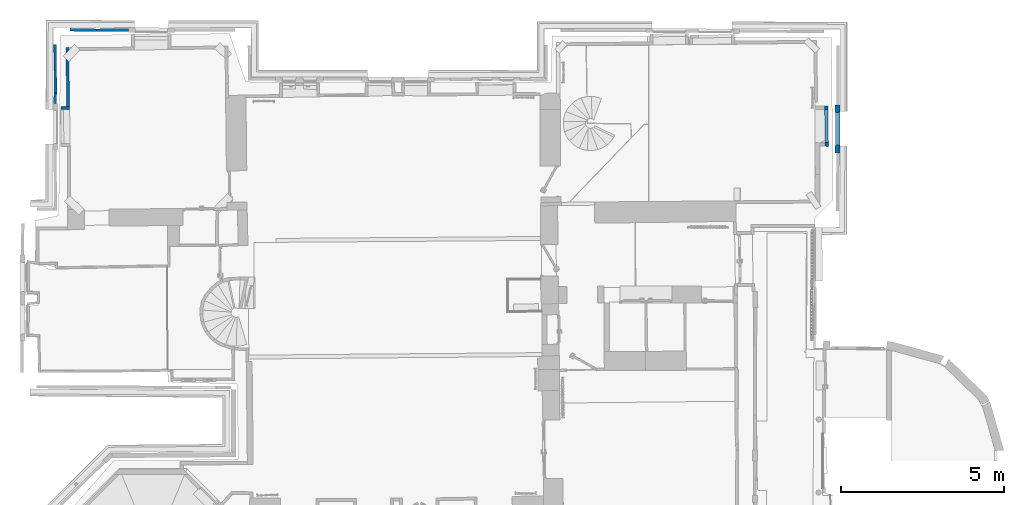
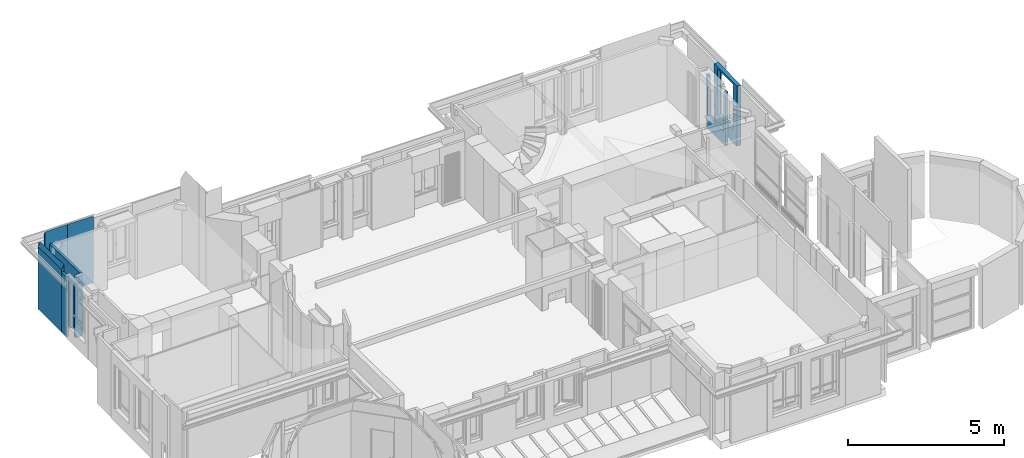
# One storey, part 19 of 72: 8 walls, 2 openings.
"""IFC2X3 building model written with IfcOpenShell, lengths in centimetres."""

from ifc_helpers import new_model, entity, si_unit, converted_unit, direction, frame, origin, origin_with_axes, origin_2d_with_axis, place, context, subcontext, project, spatial, polyline, rectangle, outline, extrude, clip, bounded_halfspace, faceted_brep, shape, material, layer, layer_set, layer_usage, type_object, element, save


model = new_model("IFC2X3")

# Units and contexts
model_context = context("Model", 3, precision=0.0001, world=origin(), true_north=direction((0.225632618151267, 0.974212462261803, 0.0)))
body_context = subcontext(model_context, "Body", "Model", "MODEL_VIEW")
footprint_context = subcontext(model_context, "FootPrint", "Model", "MODEL_VIEW")
profile_context = subcontext(model_context, "Profile", "Model", "MODEL_VIEW")
ifc_project = project(units=[si_unit("LENGTHUNIT", "METRE", prefix="CENTI"), si_unit("AREAUNIT", "SQUARE_METRE", prefix="CENTI"), si_unit("VOLUMEUNIT", "CUBIC_METRE", prefix="CENTI"), converted_unit("PLANEANGLEUNIT", "DEGREE", entity("IfcRatioMeasure", 0.0174532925), si_unit("PLANEANGLEUNIT", "RADIAN"), dimensions=[0, 0, 0, 0, 0, 0, 0])], contexts=[model_context])

# Site, building, storey
site_placement = place(None, origin_with_axes())
site = spatial("IfcSite", under=ifc_project, at=site_placement, Name="Default Site", CompositionType="ELEMENT")
building_placement = place(site_placement, origin_with_axes())
building = spatial("IfcBuilding", under=site, at=building_placement, Name="Default Building", CompositionType="ELEMENT")
storey_placement = place(building_placement, frame((0.0, 0.0, 853.910374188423), z_axis=(0.0, 0.0, 1.0), x_axis=(1.0, 0.0, 0.0)))
storey = spatial("IfcBuildingStorey", under=building, at=storey_placement, Name="Niveau 2", CompositionType="ELEMENT", Elevation=853.910374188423)

# Walls
ifc_material = material(Name="<aucun>")
ifc_layer_1 = layer(ifc_material, 9.0)
ifc_layer_set_1 = layer_set([ifc_layer_1], Name="default")
ifc_layer_usage_1 = layer_usage(ifc_layer_set_1, "AXIS2", "POSITIVE", -4.5)
wall_type_1 = type_object("IfcWallType", Name="default 90", PredefinedType="NOTDEFINED", material=ifc_layer_set_1)
wall_1_placement = place(storey_placement, frame((-1126.59242798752, 755.378510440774, -1.95399252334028e-11), z_axis=(0.0, 0.0, 1.0), x_axis=(0.999947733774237, 0.010223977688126, 0.0)))
element("IfcWallStandardCase", 1, at=wall_1_placement, inside=storey, type_object=wall_type_1, material=ifc_layer_usage_1, Name="Enveloppe 465079", context=body_context, shape_type="Clipping", body=[
    clip(clip(clip(clip(clip(clip(extrude(outline(polyline([(-0.285581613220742, -4.49377622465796), (97.8066876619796, -4.50000000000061), (97.8066876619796, 4.49999999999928), (-0.00154639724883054, 4.50174065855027), (-0.285581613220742, -4.49377622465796)])), frame((0.0, 0.0, 1.95399252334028e-11), z_axis=(0.0, 0.0, 1.0), x_axis=(1.0, 0.0, 0.0)), (0.0, 0.0, 1.0), 261.632760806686), bounded_halfspace(frame((-0.22812885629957, -2.67422281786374, 258.696162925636), z_axis=(-0.0121302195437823, -0.849439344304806, -0.527546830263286), x_axis=(0.999916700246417, -0.0126315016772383, -0.00265287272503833)), True, frame((-0.22812885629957, -2.67422281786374, 258.696162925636), z_axis=(0.0, 0.0, 1.0), x_axis=(1.0, 0.0, 0.0)), polyline([(1.77635683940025e-13, -1.77635683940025e-13), (83.1039773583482, -1.04981547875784), (83.182374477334, 7.17422281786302), (0.226582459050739, 7.17596347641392), (1.77635683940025e-13, -1.77635683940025e-13)]))), bounded_halfspace(frame((83.8684969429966, -4.50000000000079, 259.702284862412), z_axis=(-0.0121302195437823, -0.849439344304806, -0.527546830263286), x_axis=(-0.999916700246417, 0.0126315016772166, 0.00265287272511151)), True, frame((83.8684969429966, -4.50000000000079, 259.702284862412), z_axis=(0.0, 0.0, 1.0), x_axis=(1.0, 0.0, 0.0)), polyline([(0.0, -8.88178419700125e-14), (4.68095143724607, 8.88178419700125e-14), (4.68873440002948, 0.704191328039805), (0.00727658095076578, 0.763330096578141), (0.0, -8.88178419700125e-14)]))), bounded_halfspace(frame((88.5494483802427, -4.5000000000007, 259.594652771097), z_axis=(-0.0121302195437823, -0.849439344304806, -0.527546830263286), x_axis=(0.999735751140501, 8.37177549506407e-15, -0.0229875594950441)), True, frame((88.5494483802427, -4.5000000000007, 259.594652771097), z_axis=(0.0, 0.0, 1.0), x_axis=(1.0, 0.0, 0.0)), polyline([(-4.67367485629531, 0.763330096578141), (0.00778296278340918, 0.704191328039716), (0.0, 0.0), (9.25723928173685, 8.88178419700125e-14), (9.25723928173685, 8.9999999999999), (-4.59515732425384, 8.99999999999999), (-4.67367485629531, 0.763330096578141)]))), bounded_halfspace(frame((82.8758485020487, -3.72403829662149, 258.47568028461), z_axis=(-0.0121302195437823, -0.849439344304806, -0.527546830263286), x_axis=(0.999916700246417, -0.0126315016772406, -0.00265287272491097)), True, frame((82.8758485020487, -3.72403829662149, 258.47568028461), z_axis=(0.0, 0.0, 1.0), x_axis=(1.0, 0.0, 0.0)), polyline([(0.0, -8.88178419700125e-14), (0.99992502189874, -0.0126316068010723), (1.07844255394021, 8.22403829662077), (0.0783971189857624, 8.22403829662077), (0.0, -8.88178419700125e-14)]))), bounded_halfspace(frame((-0.0884719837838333, -4.50000000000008, 261.632760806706), z_axis=(-0.0121302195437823, -0.849439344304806, -0.527546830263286), x_axis=(0.999114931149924, -0.0315472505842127, 0.0278231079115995)), True, frame((-0.0884719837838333, -4.50000000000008, 261.632760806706), z_axis=(0.0, 0.0, 1.0), x_axis=(1.0, 0.0, 0.0)), polyline([(-0.197109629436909, 0.00622377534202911), (82.9569234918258, -7.105427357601e-13), (82.9643204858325, 0.775961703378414), (-0.139656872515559, 1.82577718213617), (-0.197109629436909, 0.00622377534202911)]))), bounded_halfspace(frame((82.8684515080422, -4.50000000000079, 259.725279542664), z_axis=(-0.0121302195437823, -0.849439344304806, -0.527546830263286), x_axis=(-0.999916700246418, 0.0126315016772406, 0.00265287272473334)), True, frame((82.8684515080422, -4.50000000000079, 259.725279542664), z_axis=(0.0, 0.0, 1.0), x_axis=(1.0, 0.0, 0.0)), polyline([(-1.77635683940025e-13, 0.0), (1.00004543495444, -8.88178419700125e-14), (1.00732201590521, 0.763330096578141), (0.00739699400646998, 0.775961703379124), (-1.77635683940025e-13, 0.0)]))),
])
ifc_layer_usage_2 = layer_usage(ifc_layer_set_1, "AXIS2", "POSITIVE", -4.5)
wall_2_placement = place(storey_placement, frame((-1253.1313959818, 530.717920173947, -1.95399252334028e-11), z_axis=(0.0, 0.0, 1.0), x_axis=(0.024906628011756, 0.999689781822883, 0.0)))
element("IfcWallStandardCase", 2, at=wall_2_placement, inside=storey, type_object=wall_type_1, material=ifc_layer_usage_2, Name="Enveloppe 465424", context=body_context, shape_type="SweptSolid", body=[
    extrude(outline(polyline([(-0.0581752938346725, 4.49999999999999), (0.157865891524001, -4.49999999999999), (32.0076154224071, -4.50000000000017), (32.006449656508, 4.49997095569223), (-0.0581752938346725, 4.49999999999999)])), frame((0.0, 0.0, 1.98951966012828e-11), z_axis=(0.0, 0.0, 1.0), x_axis=(1.0, 0.0, 0.0)), (0.0, 0.0, 1.0), 234.999999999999),
])
ifc_layer_usage_3 = layer_usage(ifc_layer_set_1, "AXIS2", "POSITIVE", -4.5)
wall_3_placement = place(storey_placement, frame((-1126.73602520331, 755.381024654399, -1.95399252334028e-11), z_axis=(0.0, 0.0, 1.0), x_axis=(-0.999772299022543, 0.0213389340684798, 0.0)))
element("IfcWallStandardCase", 3, at=wall_3_placement, inside=storey, type_object=wall_type_1, material=ifc_layer_usage_3, Name="Enveloppe 465179", context=body_context, shape_type="Clipping", body=[
    clip(clip(clip(extrude(rectangle(XDim=8.99999999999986, YDim=80.9146283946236, at=origin_2d_with_axis()), frame((40.457314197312, 6.21724893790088e-13, 1.98951966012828e-11), z_axis=(0.0, 0.0, 1.0), x_axis=(1.9522577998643e-14, -1.0, 0.0)), (0.0, 0.0, 1.0), 261.627271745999), bounded_halfspace(frame((1.77635683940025e-13, 4.49999999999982, 261.627271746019), z_axis=(-0.0146836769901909, 0.849399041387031, -0.527546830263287), x_axis=(2.26537538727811e-14, -0.527603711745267, -0.849490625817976)), True, frame((1.77635683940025e-13, 4.49999999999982, 261.627271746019), z_axis=(0.0, 0.0, 1.0), x_axis=(1.0, 0.0, 0.0)), polyline([(3.5527136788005e-13, -1.82046022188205), (80.9146283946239, -0.288334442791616), (80.9146283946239, 1.50990331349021e-12), (0.0, -8.88178419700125e-14), (3.5527136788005e-13, -1.82046022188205)]))), bounded_halfspace(frame((80.8185939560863, 4.20984713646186, 258.910603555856), z_axis=(-0.0146836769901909, 0.849399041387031, -0.527546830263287), x_axis=(2.71831168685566e-15, 0.52760371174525, 0.849490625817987)), True, frame((80.8185939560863, 4.20984713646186, 258.910603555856), z_axis=(0.0, 0.0, 1.0), x_axis=(1.0, 0.0, 0.0)), polyline([(-80.8185939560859, -8.70984713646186), (0.0960344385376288, -8.70984713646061), (0.0960344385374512, -5.07177087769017), (0.0, -8.88178419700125e-14), (-80.8185939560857, -1.5303073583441), (-80.8185939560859, -8.70984713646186)]))), bounded_halfspace(frame((80.9146283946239, 4.21166555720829, 258.910858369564), z_axis=(-0.0146836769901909, 0.849399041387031, -0.527546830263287), x_axis=(-1.40686073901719e-15, 0.527603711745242, 0.849490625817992)), True, frame((80.9146283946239, 4.21166555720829, 258.910858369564), z_axis=(0.0, 0.0, 1.0), x_axis=(1.0, 0.0, 0.0)), polyline([(-0.0960344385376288, -0.00181842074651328), (-1.77635683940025e-13, -5.0735892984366), (1.77635683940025e-13, -8.88178419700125e-14), (-0.0960344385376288, -0.00181842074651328)]))),
])
ifc_layer_usage_4 = layer_usage(ifc_layer_set_1, "AXIS2", "POSITIVE", -4.5)
wall_4_placement = place(storey_placement, frame((-1252.33309652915, 562.953864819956, -1.95399252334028e-11), z_axis=(0.0, 0.0, 1.0), x_axis=(-0.0024731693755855, 0.999996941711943, 0.0)))
solid = clip(clip(clip(clip(clip(clip(clip(clip(extrude(outline(polyline([(149.334775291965, 4.49999999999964), (-0.116215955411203, 4.50000288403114), (-0.361460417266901, -4.49662613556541), (149.334774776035, -4.50020861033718), (149.334775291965, 4.49999999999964)])), frame((0.0, 0.0, 1.97175609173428e-11), z_axis=(0.0, 0.0, 1.0), x_axis=(1.0, 0.0, 0.0)), (0.0, 0.0, 1.0), 260.544625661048), bounded_halfspace(frame((149.334775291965, 3.61373184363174, 245.331649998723), z_axis=(-0.00445186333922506, -0.863507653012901, -0.504316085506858), x_axis=(0.999866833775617, -0.0117617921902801, 0.0113126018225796)), True, frame((149.334775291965, 3.61373184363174, 245.331649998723), z_axis=(0.0, 0.0, 1.0), x_axis=(1.0, 0.0, 0.0)), polyline([(-75.3414208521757, 0.886268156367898), (8.88178419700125e-14, -1.77635683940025e-13), (8.88178419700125e-14, 0.886268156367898), (-75.3414208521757, 0.886268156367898)]))), bounded_halfspace(frame((-0.238278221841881, -4.50000000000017, 260.544625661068), z_axis=(-0.00445186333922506, -0.863507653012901, -0.504316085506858), x_axis=(0.999961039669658, 2.52039274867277e-13, -0.00882718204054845)), True, frame((-0.238278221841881, -4.50000000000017, 260.544625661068), z_axis=(0.0, 0.0, 1.0), x_axis=(1.0, 0.0, 0.0)), polyline([(-0.12318219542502, 0.00337386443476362), (0.238278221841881, -1.77635683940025e-13), (0.23827822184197, 0.869787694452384), (-0.09934301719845, 0.873759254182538), (-0.12318219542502, 0.00337386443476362)]))), bounded_halfspace(frame((149.250425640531, -4.50000000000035, 259.225010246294), z_axis=(-0.00445186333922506, -0.863507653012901, -0.504316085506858), x_axis=(-5.88526623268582e-15, 0.504321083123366, -0.863516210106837)), True, frame((149.250425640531, -4.50000000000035, 259.225010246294), z_axis=(0.0, 0.0, 1.0), x_axis=(1.0, 0.0, 0.0)), polyline([(8.88178419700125e-14, 0.0), (0.0843496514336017, 0.0), (0.0843496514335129, 7.17054149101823), (8.88178419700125e-14, 0.0)]))), bounded_halfspace(frame((149.292937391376, -0.886087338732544, 253.036767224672), z_axis=(-0.00445186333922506, -0.863507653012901, -0.504316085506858), x_axis=(3.31592392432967e-15, -0.504321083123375, 0.863516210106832)), True, frame((149.292937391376, -0.886087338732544, 253.036767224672), z_axis=(0.0, 0.0, 1.0), x_axis=(1.0, 0.0, 0.0)), polyline([(0.0, -1.77635683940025e-13), (0.0418379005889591, 4.49981918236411), (0.0, 4.5003113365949), (0.0, -1.77635683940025e-13)]))), bounded_halfspace(frame((73.9404211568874, -4.50000000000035, 259.889811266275), z_axis=(-0.00445186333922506, -0.863507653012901, -0.504316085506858), x_axis=(-0.999983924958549, 0.00561518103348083, -0.000787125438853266)), True, frame((73.9404211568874, -4.50000000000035, 259.889811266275), z_axis=(0.0, 0.0, 1.0), x_axis=(1.0, 0.0, 0.0)), polyline([(-73.9404211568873, 0.869787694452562), (0.0, 0.0), (75.3100044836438, 0.0), (75.3525162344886, 3.61391266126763), (75.3525162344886, 8.1142239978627), (-73.9404211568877, 8.95254434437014), (-73.9404211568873, 0.869787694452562)]))), bounded_halfspace(frame((149.292937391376, 3.61422399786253, 245.331176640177), z_axis=(-0.00445186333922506, -0.863507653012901, -0.504316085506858), x_axis=(-0.999961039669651, 1.8097502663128e-15, 0.00882718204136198)), True, frame((149.292937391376, 3.61422399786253, 245.331176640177), z_axis=(0.0, 0.0, 1.0), x_axis=(1.0, 0.0, 0.0)), polyline([(-149.292937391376, 0.83832034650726), (0.0, -1.77635683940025e-13), (-75.2995829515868, 0.885776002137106), (-149.292937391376, 0.885776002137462), (-149.292937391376, 0.83832034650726)]))), bounded_halfspace(frame((0.0, -4.50000000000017, 260.542522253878), z_axis=(-0.00445186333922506, -0.863507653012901, -0.504316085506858), x_axis=(-4.90469210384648e-14, -0.504321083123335, 0.863516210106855)), True, frame((0.0, -4.50000000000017, 260.542522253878), z_axis=(0.0, 0.0, 1.0), x_axis=(1.0, 0.0, 0.0)), polyline([(0.0, -1.77635683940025e-13), (73.9404211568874, -1.77635683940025e-13), (8.88178419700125e-14, 0.869787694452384), (0.0, -1.77635683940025e-13)]))), bounded_halfspace(frame((8.88178419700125e-14, -3.63021230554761, 259.053241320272), z_axis=(-0.00445186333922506, -0.863507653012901, -0.504316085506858), x_axis=(-1.25852019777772e-14, 0.504321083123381, -0.863516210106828)), True, frame((8.88178419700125e-14, -3.63021230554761, 259.053241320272), z_axis=(0.0, 0.0, 1.0), x_axis=(1.0, 0.0, 0.0)), polyline([(-0.33762123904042, 0.00397155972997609), (0.0, -1.77635683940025e-13), (-3.5527136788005e-13, 8.0827566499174), (-0.116331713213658, 8.08340988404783), (-0.33762123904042, 0.00397155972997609)])))
element("IfcWallStandardCase", 4, at=wall_4_placement, inside=storey, type_object=wall_type_1, material=ifc_layer_usage_4, Name="Enveloppe 465183", context=body_context, shape_type="Clipping", body=[
    clip(solid, bounded_halfspace(frame((-1.77635683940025e-13, 4.45254434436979, 245.21366248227), z_axis=(-0.00445186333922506, -0.863507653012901, -0.504316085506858), x_axis=(2.18847466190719e-12, 0.504321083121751, -0.863516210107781)), True, frame((-1.77635683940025e-13, 4.45254434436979, 245.21366248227), z_axis=(0.0, 0.0, 1.0), x_axis=(1.0, 0.0, 0.0)), polyline([(-0.116331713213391, 0.000653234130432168), (-8.88178419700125e-14, 0.0), (2.66453525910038e-13, 0.0474556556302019), (-0.115049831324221, 0.0474556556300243), (-0.116331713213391, 0.000653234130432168)]))),
])
ifc_layer_usage_5 = layer_usage(ifc_layer_set_1, "AXIS2", "POSITIVE", -4.5)
wall_5_placement = place(storey_placement, frame((-1228.6898448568, 516.957898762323, 1.4210854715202e-12), z_axis=(0.0, 0.0, 1.0), x_axis=(0.999824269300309, 0.0187464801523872, 0.0)))
element("IfcWallStandardCase", 5, at=wall_5_placement, inside=storey, type_object=wall_type_1, material=ifc_layer_usage_5, Name="Enveloppe 170792", context=body_context, shape_type="SweptSolid", body=[
    extrude(outline(polyline([(-6.61855561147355, 4.49999999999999), (-6.68365130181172, -4.49999999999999), (20.0000000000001, -4.50000000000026), (20.0581221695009, 4.44149879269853), (11.058312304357, 4.49999999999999), (-6.61855561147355, 4.49999999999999)])), frame((0.0, 0.0, -3.5527136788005e-13), z_axis=(0.0, 0.0, 1.0), x_axis=(1.0, 0.0, 0.0)), (0.0, 0.0, 1.0), 208.0),
])
ifc_layer_usage_6 = layer_usage(ifc_layer_set_1, "AXIS2", "POSITIVE", -4.5)
wall_6_placement = place(storey_placement, frame((-1213.11002942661, 512.890085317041, 1.4210854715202e-12), z_axis=(0.0, 0.0, 1.0), x_axis=(-0.012247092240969, 0.999925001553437, 0.0)))
element("IfcWallStandardCase", 6, at=wall_6_placement, inside=storey, type_object=wall_type_1, material=ifc_layer_usage_6, Name="Enveloppe 170827", context=body_context, shape_type="Clipping", body=[
    clip(clip(clip(extrude(outline(polyline([(-0.2481554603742, 23.4031162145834), (-0.0994890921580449, -4.59648910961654), (-0.0192540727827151, -4.59606309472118), (-0.019436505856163, -4.49999999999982), (190.010245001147, -4.50000000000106), (190.099007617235, 4.49999999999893), (-0.0477862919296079, 4.49999999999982), (-0.148156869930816, 23.4036471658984), (-0.2481554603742, 23.4031162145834)])), frame((0.0, 0.0, -5.32907051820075e-13), z_axis=(0.0, 0.0, 1.0), x_axis=(1.0, 0.0, 0.0)), (0.0, 0.0, 1.0), 247.5), bounded_halfspace(frame((4.33855211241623, 4.49999999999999, 208.0), z_axis=(0.0, 0.0, 1.0), x_axis=(1.0, 2.27942664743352e-15, 0.0)), True, frame((4.33855211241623, 4.49999999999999, 208.0), z_axis=(0.0, 0.0, 1.0), x_axis=(1.0, 0.0, 0.0)), polyline([(-8.88178419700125e-14, -8.99999999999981), (8.88178419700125e-14, -1.77635683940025e-13), (4.49154913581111, -1.77635683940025e-13), (4.49154913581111, -8.99999999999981), (-8.88178419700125e-14, -8.99999999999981)]))), bounded_halfspace(frame((-0.0477862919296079, 4.49999999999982, 234.999999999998), z_axis=(0.0, 0.0, 1.0), x_axis=(1.0, -5.20070098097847e-15, 0.0)), True, frame((-0.0477862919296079, 4.49999999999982, 234.999999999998), z_axis=(0.0, 0.0, 1.0), x_axis=(1.0, 0.0, 0.0)), polyline([(-0.200369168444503, 18.9031162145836), (-0.100370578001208, 18.9036471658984), (8.88178419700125e-14, -1.77635683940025e-13), (4.38633840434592, -1.77635683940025e-13), (4.38633840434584, -8.99999999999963), (0.0283497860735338, -8.99999999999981), (0.0285322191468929, -9.09606309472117), (-0.0517028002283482, -9.09648910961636), (-0.200369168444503, 18.9031162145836)]))), bounded_halfspace(frame((27.9440573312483, 1.21630952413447, 208.999999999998), z_axis=(0.0, 0.0, -1.0), x_axis=(-0.142633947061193, 0.989775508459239, 0.0)), True, frame((27.9440573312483, 1.21630952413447, 208.999999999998), z_axis=(0.0, 0.0, 1.0), x_axis=(1.0, 0.0, 0.0)), polyline([(-4.22477302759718, 0.0394432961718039), (8.88178419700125e-14, -1.77635683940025e-13), (-0.00382542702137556, 0.0265456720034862), (-4.22477302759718, 0.0394432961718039)]))),
])

# Wall, opening
ifc_layer_2 = layer(ifc_material, 10.0)
ifc_layer_set_2 = layer_set([ifc_layer_2], Name="default")
ifc_layer_usage_7 = layer_usage(ifc_layer_set_2, "AXIS2", "POSITIVE", -5.0)
wall_type_2 = type_object("IfcWallType", Name="default 100", PredefinedType="NOTDEFINED", material=ifc_layer_set_2)
wall_7_placement = place(storey_placement, frame((1110.11785791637, 400.257758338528, 1.06581410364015e-12), z_axis=(0.0, 0.0, 1.0), x_axis=(-0.00931928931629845, 0.999956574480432, 0.0)))
wall_7 = element("IfcWallStandardCase", 7, at=wall_7_placement, inside=storey, type_object=wall_type_2, material=ifc_layer_usage_7, Name="Enveloppe 180013", context=body_context, shape_type="SweptSolid", body=[
    extrude(outline(polyline([(122.662707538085, 5.00000000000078), (-0.0230565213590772, 5.00000000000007), (-0.428298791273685, -4.99999999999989), (122.460389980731, -4.99999999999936), (122.662707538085, 5.00000000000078)])), frame((0.0, 0.0, -1.77635683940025e-13), z_axis=(0.0, 0.0, 1.0), x_axis=(1.0, 0.0, 0.0)), (0.0, 0.0, 1.0), 208.000000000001),
])
opening_1_placement = place(wall_7_placement, frame((10.7602269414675, 0.0, 51.9999999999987), z_axis=(0.0, 0.0, 1.0), x_axis=(1.0, 5.759281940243e-15, 0.0)))
cartesian_point_1 = entity("IfcCartesianPoint", [8.88178419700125e-14, 0.0, 156.0])
cartesian_point_2 = entity("IfcCartesianPoint", [101.900434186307, 5.00000000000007])
element("IfcOpeningElement", 8, at=opening_1_placement, cuts=wall_7, Name="4294966525_11", ObjectType="Opening", shapes=[
    shape(body_context, "Body", "SweptSolid", [extrude(outline(polyline([(8.88178419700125e-14, 156.0), (0.0, -2.99999999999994), (101.900434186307, -2.99999999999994), (101.900434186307, 156.0), (8.88178419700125e-14, 156.0)])), frame((0.0, 15.0, 0.0), z_axis=(0.0, -1.0, 0.0), x_axis=(1.0, 0.0, 0.0)), (0.0, 0.0, 1.0), 30.0)]),
    shape(profile_context, "Profile", "GeometricCurveSet", [entity("IfcGeometricCurveSet", [entity("IfcPolyline", [cartesian_point_1, entity("IfcCartesianPoint", [0.0, 0.0, 0.0]), entity("IfcCartesianPoint", [101.900434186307, 0.0, 0.0]), entity("IfcCartesianPoint", [101.900434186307, 0.0, 156.0]), cartesian_point_1])])]),
    shape(footprint_context, "FootPrint", "GeometricCurveSet", [entity("IfcGeometricCurveSet", [entity("IfcPolyline", [cartesian_point_2, entity("IfcCartesianPoint", [0.0, 5.00000000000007]), entity("IfcCartesianPoint", [0.0, -5.00000000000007]), entity("IfcCartesianPoint", [101.900434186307, -5.00000000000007]), cartesian_point_2])])]),
])

ifc_layer_3 = layer(ifc_material, 15.0)
ifc_layer_set_3 = layer_set([ifc_layer_3], Name="default")
ifc_layer_usage_8 = layer_usage(ifc_layer_set_3, "AXIS2", "POSITIVE", -7.5)
wall_type_3 = type_object("IfcWallType", Name="default 150", PredefinedType="NOTDEFINED", material=ifc_layer_set_3)
wall_8_placement = place(storey_placement, frame((1143.1078326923, 379.975679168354, -1.95399252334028e-11), z_axis=(0.0, 0.0, 1.0), x_axis=(0.00334694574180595, 0.999994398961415, 0.0)))
wall_8 = element("IfcWallStandardCase", 9, at=wall_8_placement, inside=storey, type_object=wall_type_3, material=ifc_layer_usage_8, Name="Enveloppe 461213", context=body_context, shape_type="SweptSolid", body=[
    extrude(outline(polyline([(0.0, 7.50000000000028), (4.44089209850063e-14, 3.10451072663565), (-0.0495700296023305, 3.10478847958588), (-0.0999984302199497, -5.89507024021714), (-4.44089209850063e-14, -5.89563055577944), (-4.44089209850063e-14, -7.50000000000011), (145.969292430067, -7.50000000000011), (145.969292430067, -6.08568614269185), (146.069289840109, -6.08496643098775), (146.004515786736, 2.91480047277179), (145.969292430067, 2.91454695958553), (145.969292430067, 7.50000000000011), (0.0, 7.50000000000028)])), frame((0.0, 0.0, 1.98951966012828e-11), z_axis=(0.0, 0.0, 1.0), x_axis=(1.0, 0.0, 0.0)), (0.0, 0.0, 1.0), 234.999999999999),
])
opening_2_placement = place(wall_8_placement, frame((20.3285121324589, 0.0, 48.3848614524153), z_axis=(0.0, 0.0, 1.0), x_axis=(-1.0, -5.88504939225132e-16, 0.0)))
cartesian_point_3 = entity("IfcCartesianPoint", [0.0, -1.77635683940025e-13, 179.467843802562])
cartesian_point_4 = entity("IfcCartesianPoint", [-105.767813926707, -7.50000000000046])
element("IfcOpeningElement", 10, at=opening_2_placement, cuts=wall_8, Name="Baie 734179", ObjectType="Opening", shapes=[
    shape(body_context, "Body", "Brep", [faceted_brep([(-2.99998017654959, -27.500030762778, 179.467841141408), (-102.767794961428, -27.5000307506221, 179.467841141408), (-102.767794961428, -27.5000307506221, -2.76635235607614e-05), (-2.99998017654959, -27.500030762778, -2.76635235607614e-05), (-1.31774109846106e-05, 27.5000374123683, -2.76635235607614e-05), (-105.767807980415, 27.5000374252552, -2.76635235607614e-05), (-105.767807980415, 27.5000374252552, 179.467841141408), (-1.31774109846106e-05, 27.5000374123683, 179.467841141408), (-2.99998017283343, 2.99997972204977, -2.76635235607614e-05), (-2.99998017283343, 2.99997972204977, 179.467841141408), (-3.00001890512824, 2.99997972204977, 179.467841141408), (-3.00001890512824, 2.99997972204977, -2.76635235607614e-05), (1.87873834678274e-05, 2.99997972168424, -2.76635235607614e-05), (1.87873834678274e-05, 2.99997972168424, 179.467841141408), (1.87873834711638e-05, 3.0000071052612, 179.467841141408), (1.87873834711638e-05, 3.0000071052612, -2.76635235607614e-05), (1.87903685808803e-05, 27.5000374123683, -2.76635235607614e-05), (1.87903685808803e-05, 27.5000374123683, 179.467841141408), (-102.767794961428, -27.499971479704, -2.76635235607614e-05), (-102.767833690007, 3.00003900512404, -2.76635235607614e-05), (-105.76782369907, 3.00001178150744, -2.76635235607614e-05), (-105.767807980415, 27.5000422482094, -2.76635235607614e-05), (-102.767794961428, -27.499971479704, 179.467841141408), (-102.767794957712, 3.00003900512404, 179.467841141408), (-102.767794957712, 3.00003900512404, -2.76635235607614e-05), (-102.767833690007, 3.00003900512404, 179.467841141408), (-105.76782369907, 3.00003900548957, 179.467841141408), (-105.76782369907, 3.00003900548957, -2.76635235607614e-05), (-105.76782369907, 3.00001178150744, 179.467841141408), (-105.767823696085, 27.5000422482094, 179.467841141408), (-105.767823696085, 27.5000422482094, -2.76635235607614e-05), (-105.767807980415, 27.5000422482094, 179.467841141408)], [[[0, 1, 2, 3]], [[4, 5, 6, 7]], [[0, 3, 8, 9]], [[10, 11, 12, 13]], [[14, 15, 16, 17]], [[3, 18, 19, 20, 21, 4, 15, 11]], [[18, 22, 23, 24]], [[19, 25, 26, 27]], [[20, 28, 29, 30]], [[10, 14, 7, 31, 28, 25, 22, 0]]])]),
    shape(profile_context, "Profile", "GeometricCurveSet", [entity("IfcGeometricCurveSet", [entity("IfcPolyline", [cartesian_point_3, entity("IfcCartesianPoint", [0.0, -1.77635683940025e-13, 1.77635683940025e-13]), entity("IfcCartesianPoint", [-105.767813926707, -3.5527136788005e-13, 1.77635683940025e-13]), entity("IfcCartesianPoint", [-105.767813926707, -3.5527136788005e-13, 179.467843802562]), cartesian_point_3])])]),
    shape(footprint_context, "FootPrint", "GeometricCurveSet", [entity("IfcGeometricCurveSet", [entity("IfcPolyline", [cartesian_point_4, entity("IfcCartesianPoint", [8.88178419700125e-14, -7.50000000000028]), entity("IfcCartesianPoint", [8.88178419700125e-14, 7.49999999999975]), entity("IfcCartesianPoint", [-105.767813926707, 7.49999999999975]), cartesian_point_4])])]),
])

save(model, "model.ifc")
